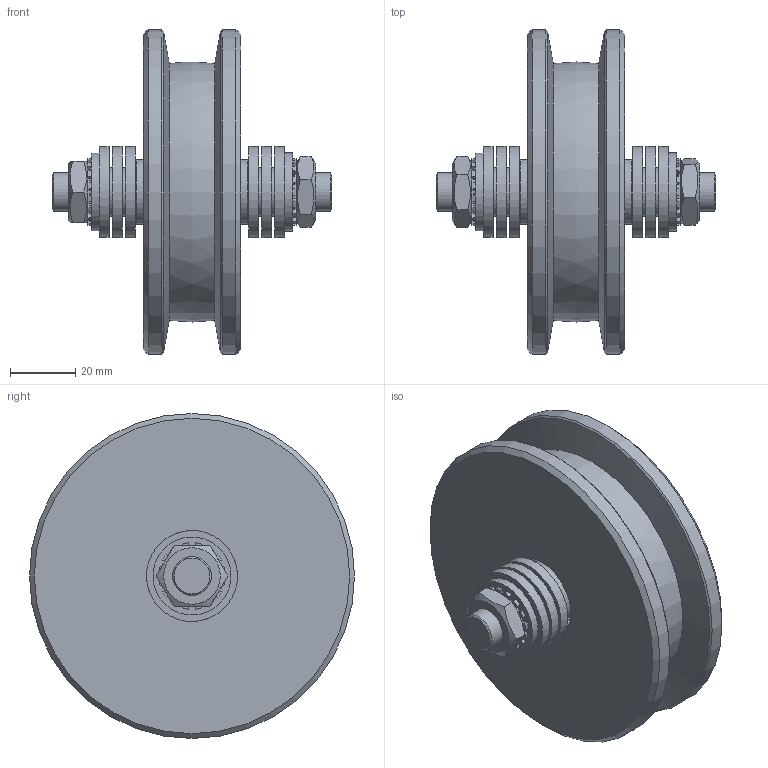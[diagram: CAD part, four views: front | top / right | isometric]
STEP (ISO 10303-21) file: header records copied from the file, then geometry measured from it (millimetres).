
FILE_DESCRIPTION(/* description */ ('Rolle Ø100'),/* implementation_level */ '2;1');
FILE_NAME(/* name */ 'Q:\sge-ma\Produktmanagement-STB\STB\Workspace\stp\010337670.stp',/* time_stamp */ '2016-07-21T13:46:13+02:00',/* author */ ('avschreier'),/* organization */ (''),/* preprocessor_version */ 'ST-DEVELOPER v16.1',/* originating_system */ 'Autodesk Inventor 2016',/* authorisation */ '');
FILE_SCHEMA (('CONFIG_CONTROL_DESIGN'));
Length unit declared in the file: millimetre
Products named in the file (10): 337000185; 337000184; 337000183; DIN_6798-A_13_en; DIN_EN_ISO_4035-M12_en; DIN_472-37x1,5_en; DIN_625-6202_en; DIN_1440-16_en; DIN_EN_ISO_7090-13_en; 010337670
Assembly tree (18 placements, depth 2):
  010337670
    337000185
    337000184  x2
    337000183
    DIN_6798-A_13_en  x2
    DIN_EN_ISO_4035-M12_en  x2
    DIN_472-37x1,5_en
    DIN_625-6202_en
    DIN_1440-16_en  x6
    DIN_EN_ISO_7090-13_en  x2
Bounding box: 86 x 100 x 100 mm (x, y, z)
Volume: 197715.6 mm3; surface area: 56110.7 mm2
Topology: 18 solids, 18 shells, 350 faces, 935 edges, 614 vertices
Faces by surface type: cylinder 173, plane 123, cone 26, torus 20, sphere 7, bspline 1
Full cylindrical faces by diameter (mm): 2.5 x2, 10.106 x2, 12 x2, 13 x4, 15 x2, 15.5 x2, 16 x6, 20 x2, 21.4 x2, 24 x2, 25.5 x1, 28 x6, 28.6 x2, 35 x2, 37 x1, 39 x1, 100 x2
Entity records: 7121 total; most frequent: CARTESIAN_POINT 1863, DIRECTION 1120, ORIENTED_EDGE 974, EDGE_CURVE 487, AXIS2_PLACEMENT_3D 469, VERTEX_POINT 348, EDGE_LOOP 287, CIRCLE 236
